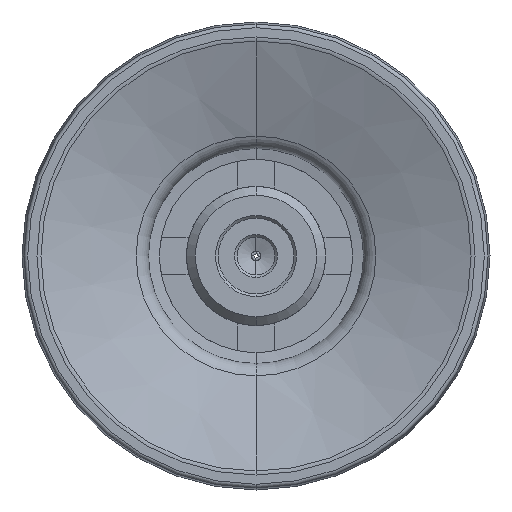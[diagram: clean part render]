
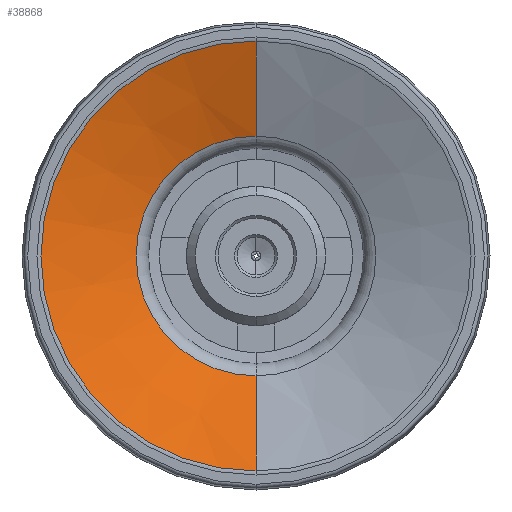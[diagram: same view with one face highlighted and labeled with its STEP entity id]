
A CAD part, front view. The second image highlights one B-rep face of the part: STEP entity #38868.
In plain terms, the highlighted conical face has half-angle 69.567 degrees and reference radius 9.476 mm.
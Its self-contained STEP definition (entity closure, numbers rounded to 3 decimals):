
#380 = ORIENTED_EDGE ( 'NONE', *, *, #32940, .T. ) ;
#824 = CONICAL_SURFACE ( 'NONE', #22960, 9.476, 1.214 ) ;
#1910 = CIRCLE ( 'NONE', #34157, 9.476 ) ;
#2457 = VECTOR ( 'NONE', #6322, 1000. ) ;
#2701 = LINE ( 'NONE', #37039, #39158 ) ;
#3726 = DIRECTION ( 'NONE',  ( 0., -1., 0. ) ) ;
#4101 = ORIENTED_EDGE ( 'NONE', *, *, #32103, .F. ) ;
#6322 = DIRECTION ( 'NONE',  ( 0., -0.349, -0.937 ) ) ;
#12668 = DIRECTION ( 'NONE',  ( 0., 0., -1. ) ) ;
#14405 = CARTESIAN_POINT ( 'NONE',  ( 0., -23.64, 0. ) ) ;
#16986 = EDGE_LOOP ( 'NONE', ( #21081, #380, #4101, #21884 ) ) ;
#17572 = CARTESIAN_POINT ( 'NONE',  ( 0., -23.64, 0. ) ) ;
#18150 = EDGE_CURVE ( 'NONE', #48381, #56055, #28286, .T. ) ;
#21081 = ORIENTED_EDGE ( 'NONE', *, *, #52171, .T. ) ;
#21884 = ORIENTED_EDGE ( 'NONE', *, *, #18150, .F. ) ;
#22945 = CARTESIAN_POINT ( 'NONE',  ( 0., -23.64, 9.476 ) ) ;
#22960 = AXIS2_PLACEMENT_3D ( 'NONE', #17572, #3726, #12668 ) ;
#23648 = DIRECTION ( 'NONE',  ( 0., 0., 1. ) ) ;
#23683 = VERTEX_POINT ( 'NONE', #39003 ) ;
#27691 = DIRECTION ( 'NONE',  ( 0., 1., 0. ) ) ;
#27693 = DIRECTION ( 'NONE',  ( 0., 1., 0. ) ) ;
#28095 = CARTESIAN_POINT ( 'NONE',  ( 0., -26.443, -17. ) ) ;
#28286 = LINE ( 'NONE', #33164, #2457 ) ;
#32103 = EDGE_CURVE ( 'NONE', #56055, #23683, #41086, .T. ) ;
#32848 = DIRECTION ( 'NONE',  ( 0., 0., 1. ) ) ;
#32940 = EDGE_CURVE ( 'NONE', #46290, #23683, #2701, .T. ) ;
#33164 = CARTESIAN_POINT ( 'NONE',  ( 0., -23.64, -9.476 ) ) ;
#34157 = AXIS2_PLACEMENT_3D ( 'NONE', #14405, #27693, #32848 ) ;
#36324 = CARTESIAN_POINT ( 'NONE',  ( 0., -26.443, 0. ) ) ;
#37039 = CARTESIAN_POINT ( 'NONE',  ( 0., -23.64, 9.476 ) ) ;
#38868 = ADVANCED_FACE ( 'NONE', ( #48712 ), #824, .F. ) ;
#39003 = CARTESIAN_POINT ( 'NONE',  ( 0., -26.443, 17. ) ) ;
#39158 = VECTOR ( 'NONE', #54590, 1000. ) ;
#41086 = CIRCLE ( 'NONE', #48434, 17. ) ;
#46290 = VERTEX_POINT ( 'NONE', #22945 ) ;
#47102 = CARTESIAN_POINT ( 'NONE',  ( 0., -23.64, -9.476 ) ) ;
#48381 = VERTEX_POINT ( 'NONE', #47102 ) ;
#48434 = AXIS2_PLACEMENT_3D ( 'NONE', #36324, #27691, #23648 ) ;
#48712 = FACE_OUTER_BOUND ( 'NONE', #16986, .T. ) ;
#52171 = EDGE_CURVE ( 'NONE', #48381, #46290, #1910, .T. ) ;
#54590 = DIRECTION ( 'NONE',  ( 0., -0.349, 0.937 ) ) ;
#56055 = VERTEX_POINT ( 'NONE', #28095 ) ;
